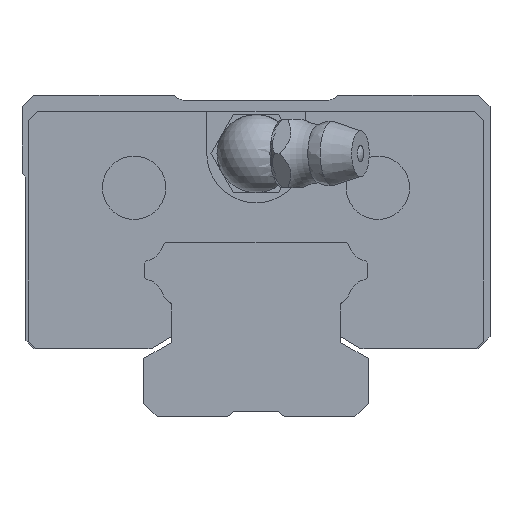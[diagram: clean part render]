
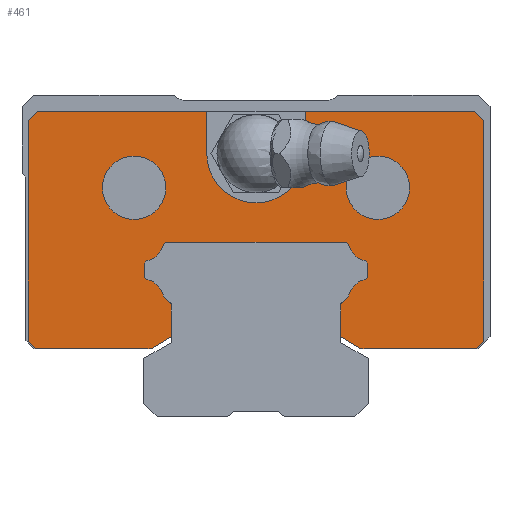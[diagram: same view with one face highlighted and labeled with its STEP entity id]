
A CAD part, front view. The second image highlights one B-rep face of the part: STEP entity #461.
In plain terms, the highlighted planar face has unit normal (0, -1, 0).
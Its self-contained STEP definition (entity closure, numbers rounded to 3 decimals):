
#202=FACE_BOUND('',#921,.T.);
#203=FACE_BOUND('',#922,.T.);
#298=CIRCLE('',#3246,2.2);
#300=CIRCLE('',#3252,2.2);
#302=CIRCLE('',#3258,2.2);
#304=CIRCLE('',#3264,2.2);
#309=CIRCLE('',#3294,3.25);
#310=CIRCLE('',#3295,3.25);
#311=CIRCLE('',#3296,5.05);
#461=ADVANCED_FACE('',(#202,#203,#736),#592,.F.);
#592=PLANE('',#3297);
#736=FACE_OUTER_BOUND('',#923,.T.);
#921=EDGE_LOOP('',(#1636));
#922=EDGE_LOOP('',(#1637));
#923=EDGE_LOOP('',(#1638,#1639,#1640,#1641,#1642,#1643,#1644,#1645,#1646,
#1647,#1648,#1649,#1650,#1651,#1652,#1653,#1654,#1655,#1656,#1657,#1658,
#1659,#1660,#1661,#1662,#1663,#1664,#1665,#1666,#1667,#1668,#1669));
#1636=ORIENTED_EDGE('',*,*,#2442,.F.);
#1637=ORIENTED_EDGE('',*,*,#2443,.F.);
#1638=ORIENTED_EDGE('',*,*,#2444,.F.);
#1639=ORIENTED_EDGE('',*,*,#2445,.T.);
#1640=ORIENTED_EDGE('',*,*,#2438,.F.);
#1641=ORIENTED_EDGE('',*,*,#2435,.T.);
#1642=ORIENTED_EDGE('',*,*,#2433,.F.);
#1643=ORIENTED_EDGE('',*,*,#2431,.T.);
#1644=ORIENTED_EDGE('',*,*,#2412,.F.);
#1645=ORIENTED_EDGE('',*,*,#2406,.T.);
#1646=ORIENTED_EDGE('',*,*,#2403,.F.);
#1647=ORIENTED_EDGE('',*,*,#2400,.F.);
#1648=ORIENTED_EDGE('',*,*,#2397,.T.);
#1649=ORIENTED_EDGE('',*,*,#2394,.F.);
#1650=ORIENTED_EDGE('',*,*,#2391,.F.);
#1651=ORIENTED_EDGE('',*,*,#2388,.T.);
#1652=ORIENTED_EDGE('',*,*,#2385,.T.);
#1653=ORIENTED_EDGE('',*,*,#2382,.T.);
#1654=ORIENTED_EDGE('',*,*,#2379,.T.);
#1655=ORIENTED_EDGE('',*,*,#2376,.F.);
#1656=ORIENTED_EDGE('',*,*,#2373,.T.);
#1657=ORIENTED_EDGE('',*,*,#2370,.F.);
#1658=ORIENTED_EDGE('',*,*,#2367,.T.);
#1659=ORIENTED_EDGE('',*,*,#2364,.T.);
#1660=ORIENTED_EDGE('',*,*,#2361,.T.);
#1661=ORIENTED_EDGE('',*,*,#2358,.T.);
#1662=ORIENTED_EDGE('',*,*,#2355,.T.);
#1663=ORIENTED_EDGE('',*,*,#2352,.F.);
#1664=ORIENTED_EDGE('',*,*,#2348,.T.);
#1665=ORIENTED_EDGE('',*,*,#2430,.F.);
#1666=ORIENTED_EDGE('',*,*,#2428,.T.);
#1667=ORIENTED_EDGE('',*,*,#2426,.F.);
#1668=ORIENTED_EDGE('',*,*,#2437,.F.);
#1669=ORIENTED_EDGE('',*,*,#2446,.F.);
#1985=VERTEX_POINT('',#4863);
#1986=VERTEX_POINT('',#4865);
#1989=VERTEX_POINT('',#4873);
#1991=VERTEX_POINT('',#4879);
#1993=VERTEX_POINT('',#4885);
#1995=VERTEX_POINT('',#4891);
#1997=VERTEX_POINT('',#4897);
#1999=VERTEX_POINT('',#4903);
#2001=VERTEX_POINT('',#4909);
#2003=VERTEX_POINT('',#4915);
#2005=VERTEX_POINT('',#4921);
#2007=VERTEX_POINT('',#4927);
#2009=VERTEX_POINT('',#4933);
#2011=VERTEX_POINT('',#4939);
#2013=VERTEX_POINT('',#4945);
#2015=VERTEX_POINT('',#4951);
#2017=VERTEX_POINT('',#4957);
#2019=VERTEX_POINT('',#4963);
#2021=VERTEX_POINT('',#4969);
#2023=VERTEX_POINT('',#4975);
#2025=VERTEX_POINT('',#4981);
#2028=VERTEX_POINT('',#4991);
#2034=VERTEX_POINT('',#5024);
#2035=VERTEX_POINT('',#5026);
#2036=VERTEX_POINT('',#5030);
#2037=VERTEX_POINT('',#5036);
#2038=VERTEX_POINT('',#5040);
#2039=VERTEX_POINT('',#5044);
#2040=VERTEX_POINT('',#5048);
#2041=VERTEX_POINT('',#5050);
#2044=VERTEX_POINT('',#5058);
#2045=VERTEX_POINT('',#5060);
#2046=VERTEX_POINT('',#5062);
#2047=VERTEX_POINT('',#5063);
#2348=EDGE_CURVE('',#1986,#1985,#2667,.T.);
#2352=EDGE_CURVE('',#1986,#1989,#2671,.T.);
#2355=EDGE_CURVE('',#1991,#1989,#2674,.T.);
#2358=EDGE_CURVE('',#1993,#1991,#2677,.T.);
#2361=EDGE_CURVE('',#1995,#1993,#298,.T.);
#2364=EDGE_CURVE('',#1997,#1995,#2681,.T.);
#2367=EDGE_CURVE('',#1999,#1997,#2684,.T.);
#2370=EDGE_CURVE('',#1999,#2001,#2687,.T.);
#2373=EDGE_CURVE('',#2003,#2001,#300,.T.);
#2376=EDGE_CURVE('',#2003,#2005,#2691,.T.);
#2379=EDGE_CURVE('',#2007,#2005,#2694,.T.);
#2382=EDGE_CURVE('',#2009,#2007,#2697,.T.);
#2385=EDGE_CURVE('',#2011,#2009,#302,.T.);
#2388=EDGE_CURVE('',#2013,#2011,#2701,.T.);
#2391=EDGE_CURVE('',#2013,#2015,#2704,.T.);
#2394=EDGE_CURVE('',#2015,#2017,#2707,.T.);
#2397=EDGE_CURVE('',#2019,#2017,#304,.T.);
#2400=EDGE_CURVE('',#2019,#2021,#2711,.T.);
#2403=EDGE_CURVE('',#2021,#2023,#2714,.T.);
#2406=EDGE_CURVE('',#2025,#2023,#2717,.T.);
#2412=EDGE_CURVE('',#2025,#2028,#2723,.T.);
#2426=EDGE_CURVE('',#2034,#2035,#2734,.T.);
#2428=EDGE_CURVE('',#2036,#2035,#2736,.T.);
#2430=EDGE_CURVE('',#2036,#1985,#2738,.T.);
#2431=EDGE_CURVE('',#2037,#2028,#2739,.T.);
#2433=EDGE_CURVE('',#2037,#2038,#2741,.T.);
#2435=EDGE_CURVE('',#2039,#2038,#2743,.T.);
#2437=EDGE_CURVE('',#2040,#2034,#2745,.T.);
#2438=EDGE_CURVE('',#2039,#2041,#2746,.T.);
#2442=EDGE_CURVE('',#2044,#2044,#309,.T.);
#2443=EDGE_CURVE('',#2045,#2045,#310,.T.);
#2444=EDGE_CURVE('',#2046,#2047,#311,.T.);
#2445=EDGE_CURVE('',#2046,#2041,#2750,.T.);
#2446=EDGE_CURVE('',#2047,#2040,#2751,.T.);
#2667=LINE('',#4864,#2959);
#2671=LINE('',#4872,#2963);
#2674=LINE('',#4878,#2966);
#2677=LINE('',#4884,#2969);
#2681=LINE('',#4896,#2973);
#2684=LINE('',#4902,#2976);
#2687=LINE('',#4908,#2979);
#2691=LINE('',#4920,#2983);
#2694=LINE('',#4926,#2986);
#2697=LINE('',#4932,#2989);
#2701=LINE('',#4944,#2993);
#2704=LINE('',#4950,#2996);
#2707=LINE('',#4956,#2999);
#2711=LINE('',#4968,#3003);
#2714=LINE('',#4974,#3006);
#2717=LINE('',#4980,#3009);
#2723=LINE('',#4990,#3015);
#2734=LINE('',#5025,#3026);
#2736=LINE('',#5029,#3028);
#2738=LINE('',#5033,#3030);
#2739=LINE('',#5035,#3031);
#2741=LINE('',#5039,#3033);
#2743=LINE('',#5043,#3035);
#2745=LINE('',#5047,#3037);
#2746=LINE('',#5049,#3038);
#2750=LINE('',#5064,#3042);
#2751=LINE('',#5065,#3043);
#2959=VECTOR('',#3861,1.);
#2963=VECTOR('',#3867,1.);
#2966=VECTOR('',#3872,1.);
#2969=VECTOR('',#3877,1.);
#2973=VECTOR('',#3889,1.);
#2976=VECTOR('',#3894,1.);
#2979=VECTOR('',#3899,1.);
#2983=VECTOR('',#3911,1.);
#2986=VECTOR('',#3916,1.);
#2989=VECTOR('',#3921,1.);
#2993=VECTOR('',#3933,1.);
#2996=VECTOR('',#3938,1.);
#2999=VECTOR('',#3943,1.);
#3003=VECTOR('',#3955,1.);
#3006=VECTOR('',#3960,1.);
#3009=VECTOR('',#3965,1.);
#3015=VECTOR('',#3973,1.);
#3026=VECTOR('',#4018,1.);
#3028=VECTOR('',#4022,1.);
#3030=VECTOR('',#4026,1.);
#3031=VECTOR('',#4029,1.);
#3033=VECTOR('',#4033,1.);
#3035=VECTOR('',#4037,1.);
#3037=VECTOR('',#4041,1.);
#3038=VECTOR('',#4042,1.);
#3042=VECTOR('',#4054,1.);
#3043=VECTOR('',#4055,1.);
#3246=AXIS2_PLACEMENT_3D('',#4890,#3882,#3883);
#3252=AXIS2_PLACEMENT_3D('',#4914,#3904,#3905);
#3258=AXIS2_PLACEMENT_3D('',#4938,#3926,#3927);
#3264=AXIS2_PLACEMENT_3D('',#4962,#3948,#3949);
#3294=AXIS2_PLACEMENT_3D('',#5057,#4048,#4049);
#3295=AXIS2_PLACEMENT_3D('',#5059,#4050,#4051);
#3296=AXIS2_PLACEMENT_3D('',#5061,#4052,#4053);
#3297=AXIS2_PLACEMENT_3D('',#5066,#4056,#4057);
#3861=DIRECTION('',(1.,0.,0.));
#3867=DIRECTION('',(-0.866,0.,0.5));
#3872=DIRECTION('',(0.,0.,-1.));
#3877=DIRECTION('',(-0.707,0.,-0.707));
#3882=DIRECTION('',(0.,-1.,0.));
#3883=DIRECTION('',(1.,0.,0.));
#3889=DIRECTION('',(-0.707,0.,-0.707));
#3894=DIRECTION('',(0.,0.,-1.));
#3899=DIRECTION('',(-0.707,0.,0.707));
#3904=DIRECTION('',(0.,-1.,0.));
#3905=DIRECTION('',(1.,0.,0.));
#3911=DIRECTION('',(-0.707,0.,0.707));
#3916=DIRECTION('',(1.,0.,0.));
#3921=DIRECTION('',(0.707,0.,0.707));
#3926=DIRECTION('',(0.,-1.,0.));
#3927=DIRECTION('',(1.,0.,0.));
#3933=DIRECTION('',(0.707,0.,0.707));
#3938=DIRECTION('',(0.,0.,-1.));
#3943=DIRECTION('',(0.707,0.,-0.707));
#3948=DIRECTION('',(0.,-1.,0.));
#3949=DIRECTION('',(1.,0.,0.));
#3955=DIRECTION('',(0.707,0.,-0.707));
#3960=DIRECTION('',(0.,0.,-1.));
#3965=DIRECTION('',(0.866,0.,0.5));
#3973=DIRECTION('',(-1.,0.,0.));
#4018=DIRECTION('',(0.707,0.,-0.707));
#4022=DIRECTION('',(0.,0.,1.));
#4026=DIRECTION('',(-0.707,0.,-0.707));
#4029=DIRECTION('',(0.707,0.,-0.707));
#4033=DIRECTION('',(0.,0.,1.));
#4037=DIRECTION('',(-0.707,0.,-0.707));
#4041=DIRECTION('',(1.,0.,0.));
#4042=DIRECTION('',(1.,0.,0.));
#4048=DIRECTION('',(0.,-1.,0.));
#4049=DIRECTION('',(0.,0.,-1.));
#4050=DIRECTION('',(0.,-1.,0.));
#4051=DIRECTION('',(0.,0.,-1.));
#4052=DIRECTION('',(0.,-1.,0.));
#4053=DIRECTION('',(1.,0.,0.));
#4054=DIRECTION('',(0.,0.,1.));
#4055=DIRECTION('',(0.,0.,1.));
#4056=DIRECTION('',(0.,1.,0.));
#4057=DIRECTION('',(0.,0.,-1.));
#4863=CARTESIAN_POINT('',(22.616,-30.1,6.4));
#4864=CARTESIAN_POINT('',(10.768,-30.1,6.4));
#4865=CARTESIAN_POINT('',(10.768,-30.1,6.4));
#4872=CARTESIAN_POINT('',(10.768,-30.1,6.4));
#4873=CARTESIAN_POINT('',(8.63,-30.1,7.634));
#4878=CARTESIAN_POINT('',(8.63,-30.1,10.921));
#4879=CARTESIAN_POINT('',(8.63,-30.1,10.921));
#4884=CARTESIAN_POINT('',(9.503,-30.1,11.794));
#4885=CARTESIAN_POINT('',(9.503,-30.1,11.794));
#4890=CARTESIAN_POINT('',(11.656,-30.1,11.344));
#4891=CARTESIAN_POINT('',(11.206,-30.1,13.497));
#4896=CARTESIAN_POINT('',(11.43,-30.1,13.721));
#4897=CARTESIAN_POINT('',(11.43,-30.1,13.721));
#4902=CARTESIAN_POINT('',(11.43,-30.1,15.179));
#4903=CARTESIAN_POINT('',(11.43,-30.1,15.179));
#4908=CARTESIAN_POINT('',(11.43,-30.1,15.179));
#4909=CARTESIAN_POINT('',(11.206,-30.1,15.403));
#4914=CARTESIAN_POINT('',(11.656,-30.1,17.556));
#4915=CARTESIAN_POINT('',(9.503,-30.1,17.106));
#4920=CARTESIAN_POINT('',(9.503,-30.1,17.106));
#4921=CARTESIAN_POINT('',(9.279,-30.1,17.33));
#4926=CARTESIAN_POINT('',(-9.279,-30.1,17.33));
#4927=CARTESIAN_POINT('',(-9.279,-30.1,17.33));
#4932=CARTESIAN_POINT('',(-9.503,-30.1,17.106));
#4933=CARTESIAN_POINT('',(-9.503,-30.1,17.106));
#4938=CARTESIAN_POINT('',(-11.656,-30.1,17.556));
#4939=CARTESIAN_POINT('',(-11.206,-30.1,15.403));
#4944=CARTESIAN_POINT('',(-11.43,-30.1,15.179));
#4945=CARTESIAN_POINT('',(-11.43,-30.1,15.179));
#4950=CARTESIAN_POINT('',(-11.43,-30.1,15.179));
#4951=CARTESIAN_POINT('',(-11.43,-30.1,13.721));
#4956=CARTESIAN_POINT('',(-11.43,-30.1,13.721));
#4957=CARTESIAN_POINT('',(-11.206,-30.1,13.497));
#4962=CARTESIAN_POINT('',(-11.656,-30.1,11.344));
#4963=CARTESIAN_POINT('',(-9.503,-30.1,11.794));
#4968=CARTESIAN_POINT('',(-9.503,-30.1,11.794));
#4969=CARTESIAN_POINT('',(-8.63,-30.1,10.921));
#4974=CARTESIAN_POINT('',(-8.63,-30.1,10.921));
#4975=CARTESIAN_POINT('',(-8.63,-30.1,7.634));
#4980=CARTESIAN_POINT('',(-10.768,-30.1,6.4));
#4981=CARTESIAN_POINT('',(-10.768,-30.1,6.4));
#4990=CARTESIAN_POINT('',(-10.768,-30.1,6.4));
#4991=CARTESIAN_POINT('',(-22.616,-30.1,6.4));
#5024=CARTESIAN_POINT('',(22.42,-30.1,30.77));
#5025=CARTESIAN_POINT('',(22.42,-30.1,30.77));
#5026=CARTESIAN_POINT('',(23.37,-30.1,29.82));
#5029=CARTESIAN_POINT('',(23.37,-30.1,7.154));
#5030=CARTESIAN_POINT('',(23.37,-30.1,7.154));
#5033=CARTESIAN_POINT('',(23.37,-30.1,7.154));
#5035=CARTESIAN_POINT('',(-23.37,-30.1,7.154));
#5036=CARTESIAN_POINT('',(-23.37,-30.1,7.154));
#5039=CARTESIAN_POINT('',(-23.37,-30.1,7.154));
#5040=CARTESIAN_POINT('',(-23.37,-30.1,29.82));
#5043=CARTESIAN_POINT('',(-22.42,-30.1,30.77));
#5044=CARTESIAN_POINT('',(-22.42,-30.1,30.77));
#5047=CARTESIAN_POINT('',(-22.42,-30.1,30.77));
#5048=CARTESIAN_POINT('',(5.05,-30.1,30.77));
#5049=CARTESIAN_POINT('',(-22.42,-30.1,30.77));
#5050=CARTESIAN_POINT('',(-5.05,-30.1,30.77));
#5057=CARTESIAN_POINT('',(12.5,-30.1,22.9));
#5058=CARTESIAN_POINT('',(12.5,-30.1,19.65));
#5059=CARTESIAN_POINT('',(-12.5,-30.1,22.9));
#5060=CARTESIAN_POINT('',(-12.5,-30.1,19.65));
#5061=CARTESIAN_POINT('',(0.,-30.1,26.4));
#5062=CARTESIAN_POINT('',(-5.05,-30.1,26.4));
#5063=CARTESIAN_POINT('',(5.05,-30.1,26.4));
#5064=CARTESIAN_POINT('',(-5.05,-30.1,26.4));
#5065=CARTESIAN_POINT('',(5.05,-30.1,26.4));
#5066=CARTESIAN_POINT('',(11.656,-30.1,11.344));
